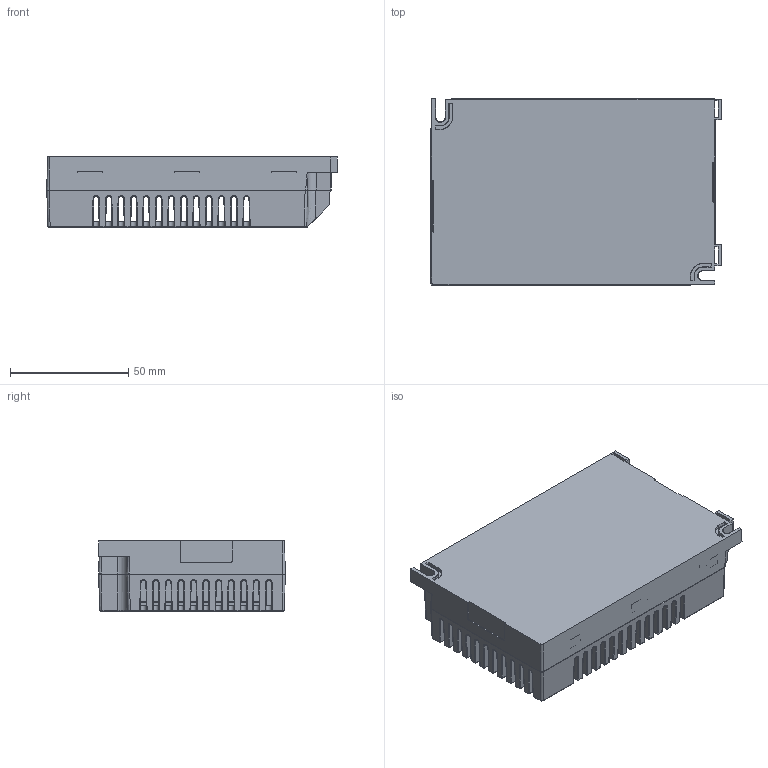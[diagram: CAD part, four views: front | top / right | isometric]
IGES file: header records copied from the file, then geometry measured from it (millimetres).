
Start section: SolidWorks IGES file using analytic representation for surfaces
Global section: file name: c:\users\vuorinen_kari\OneDrive - Helvar Oy Ab\Desktop\prj\LC50 FREEDOM\LC1x50 FREEDOM.IGS; native system: SolidWorks 2014; preprocessor: SolidWorks 2014; author: Vuorinen_Kari; date: 200313.094707; units: millimetre
Bounding box: 122.95 x 79 x 29.65 mm (x, y, z)
Surface area: 84783.6 mm2 (no closed solid volume)
Topology: 0 solids, 0 shells, 1501 faces, 12284 edges, 12208 vertices
Faces by surface type: bspline 934, revolution 567
